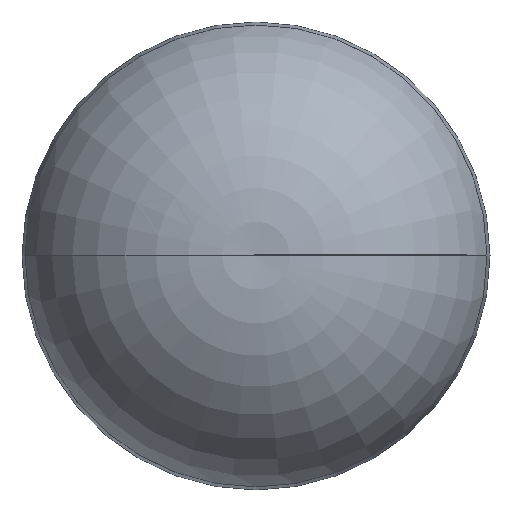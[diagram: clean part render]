
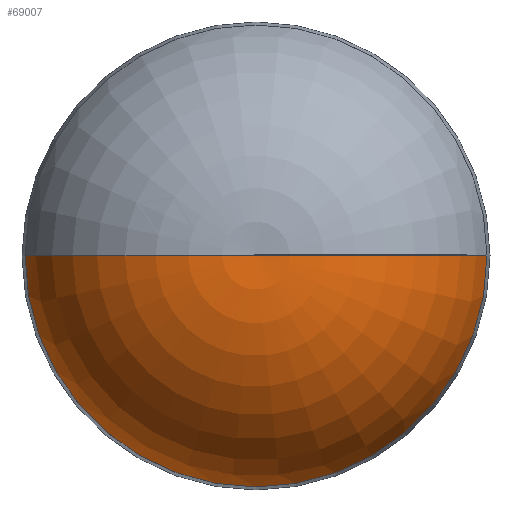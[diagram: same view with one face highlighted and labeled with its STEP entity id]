
A CAD part, top view. The second image highlights one B-rep face of the part: STEP entity #69007.
In plain terms, the highlighted toroidal (fillet/blend) face has major radius 311.632 mm and minor radius 2374.62 mm.
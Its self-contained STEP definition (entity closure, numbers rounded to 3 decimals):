
#1782 = DIRECTION ( 'NONE',  ( 0., -1., 0. ) ) ;
#17612 = CARTESIAN_POINT ( 'NONE',  ( 0., 0., 671.338 ) ) ;
#19250 = AXIS2_PLACEMENT_3D ( 'NONE', #39875, #91255, #47271 ) ;
#19699 = DIRECTION ( 'NONE',  ( 0., 1., 0. ) ) ;
#21874 = VERTEX_POINT ( 'NONE', #92527 ) ;
#23443 = EDGE_LOOP ( 'NONE', ( #90594, #39330, #32775 ) ) ;
#30323 = CIRCLE ( 'NONE', #19250, 2615.72 ) ;
#32425 = DIRECTION ( 'NONE',  ( -1., 0., 0. ) ) ;
#32775 = ORIENTED_EDGE ( 'NONE', *, *, #51941, .F. ) ;
#39330 = ORIENTED_EDGE ( 'NONE', *, *, #59828, .T. ) ;
#39875 = CARTESIAN_POINT ( 'NONE',  ( 0., 0., 1245.811 ) ) ;
#40257 = FACE_OUTER_BOUND ( 'NONE', #23443, .T. ) ;
#45827 = CARTESIAN_POINT ( 'NONE',  ( -311.632, 0., 671.338 ) ) ;
#47271 = DIRECTION ( 'NONE',  ( -1., 0., 0. ) ) ;
#48874 = AXIS2_PLACEMENT_3D ( 'NONE', #17612, #76454, #32425 ) ;
#49444 = VERTEX_POINT ( 'NONE', #93779 ) ;
#51941 = EDGE_CURVE ( 'NONE', #78719, #21874, #30323, .T. ) ;
#53245 = DIRECTION ( 'NONE',  ( 0., 0., -1. ) ) ;
#58411 = CIRCLE ( 'NONE', #75073, 2374.625 ) ;
#59828 = EDGE_CURVE ( 'NONE', #49444, #21874, #76844, .T. ) ;
#60238 = EDGE_CURVE ( 'NONE', #49444, #78719, #58411, .T. ) ;
#60842 = AXIS2_PLACEMENT_3D ( 'NONE', #45827, #1782, #53245 ) ;
#63783 = CARTESIAN_POINT ( 'NONE',  ( 311.632, 0., 671.338 ) ) ;
#69007 = ADVANCED_FACE ( 'NONE', ( #40257 ), #77053, .T. ) ;
#71186 = DIRECTION ( 'NONE',  ( -1., 0., 0. ) ) ;
#75073 = AXIS2_PLACEMENT_3D ( 'NONE', #63783, #19699, #71186 ) ;
#76454 = DIRECTION ( 'NONE',  ( 0., 0., -1. ) ) ;
#76844 = CIRCLE ( 'NONE', #60842, 2374.625 ) ;
#77053 = TOROIDAL_SURFACE ( 'NONE', #48874, 311.632, 2374.625 ) ;
#78719 = VERTEX_POINT ( 'NONE', #87905 ) ;
#87905 = CARTESIAN_POINT ( 'NONE',  ( 2615.72, 0., 1245.811 ) ) ;
#90594 = ORIENTED_EDGE ( 'NONE', *, *, #60238, .F. ) ;
#91255 = DIRECTION ( 'NONE',  ( 0., 0., -1. ) ) ;
#92527 = CARTESIAN_POINT ( 'NONE',  ( -2615.72, 0., 1245.811 ) ) ;
#93779 = CARTESIAN_POINT ( 'NONE',  ( 0., 0., 3025.425 ) ) ;
